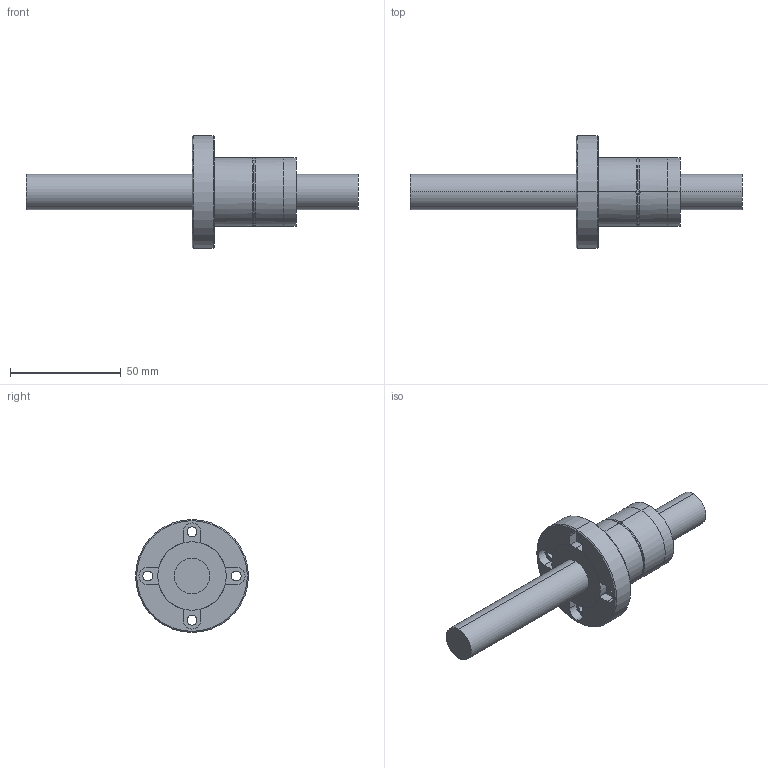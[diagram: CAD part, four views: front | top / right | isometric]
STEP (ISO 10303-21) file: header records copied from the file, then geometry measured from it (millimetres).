
FILE_DESCRIPTION (( 'STEP AP203' ), '1' );
FILE_NAME ('KLF016T2.STEP', '2023-08-17T07:25:09', ( '' ), ( '' ), 'SwSTEP 2.0', 'SolidWorks 2022', '' );
FILE_SCHEMA (( 'CONFIG_CONTROL_DESIGN' ));
Length unit declared in the file: millimetre
Products named in the file (5): 塑胶2^KLF016T2; KLF016T2; 塑胶1^KLF016T2; 主体^KLF016T2; 零件6^KLF016T2
Assembly tree (4 placements, depth 2):
  KLF016T2
    主体^KLF016T2
    塑胶1^KLF016T2
    塑胶2^KLF016T2
    零件6^KLF016T2
Bounding box: 150 x 51 x 51 mm (x, y, z)
Volume: 67581.7 mm3; surface area: 22920.3 mm2
Topology: 4 solids, 4 shells, 67 faces, 171 edges, 110 vertices
Faces by surface type: cylinder 37, plane 22, torus 4, cone 4
Entity records: 2720 total; most frequent: CARTESIAN_POINT 507, DIRECTION 379, ORIENTED_EDGE 342, EDGE_CURVE 171, AXIS2_PLACEMENT_3D 154, VERTEX_POINT 110, EDGE_LOOP 83, CIRCLE 80
